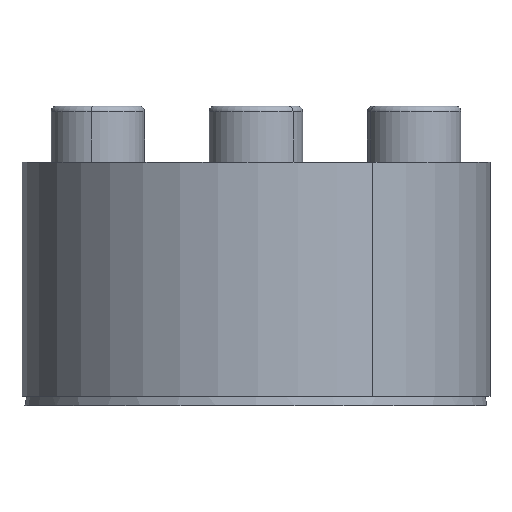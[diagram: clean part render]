
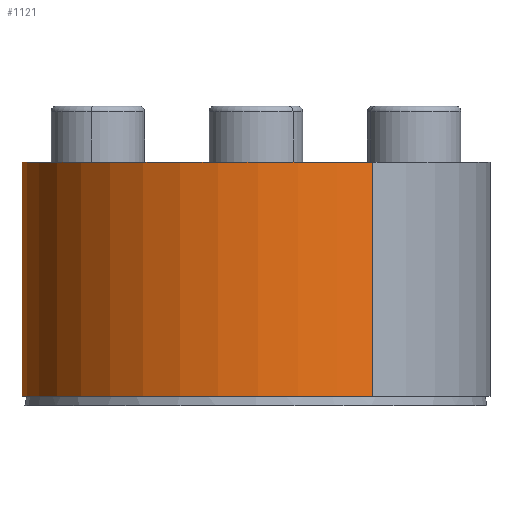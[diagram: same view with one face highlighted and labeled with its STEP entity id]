
A CAD part, front view. The second image highlights one B-rep face of the part: STEP entity #1121.
In plain terms, the highlighted cylindrical face has radius 25 mm (diameter 50 mm), a partial arc.
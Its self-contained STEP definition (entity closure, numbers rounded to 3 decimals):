
#95 = CARTESIAN_POINT ( 'NONE',  ( -24.98, -1., 1.024 ) ) ;
#251 = CYLINDRICAL_SURFACE ( 'NONE', #5827, 25. ) ;
#395 = VECTOR ( 'NONE', #1952, 1000. ) ;
#780 = VERTEX_POINT ( 'NONE', #9679 ) ;
#1034 = DIRECTION ( 'NONE',  ( 0., 0., -1. ) ) ;
#1121 = ADVANCED_FACE ( 'NONE', ( #1218 ), #251, .T. ) ;
#1215 = ORIENTED_EDGE ( 'NONE', *, *, #7143, .T. ) ;
#1218 = FACE_OUTER_BOUND ( 'NONE', #8029, .T. ) ;
#1461 = CARTESIAN_POINT ( 'NONE',  ( -24.98, -1., 1.024 ) ) ;
#1529 = VECTOR ( 'NONE', #3174, 1000. ) ;
#1952 = DIRECTION ( 'NONE',  ( 0., 0., 1. ) ) ;
#2355 = VERTEX_POINT ( 'NONE', #1461 ) ;
#2838 = DIRECTION ( 'NONE',  ( -0.5, 0.866, 0. ) ) ;
#2923 = CIRCLE ( 'NONE', #3087, 25. ) ;
#3087 = AXIS2_PLACEMENT_3D ( 'NONE', #4184, #9535, #4979 ) ;
#3174 = DIRECTION ( 'NONE',  ( 0., 0., -1. ) ) ;
#3462 = CARTESIAN_POINT ( 'NONE',  ( 0., 0., 1.024 ) ) ;
#3560 = DIRECTION ( 'NONE',  ( 0., 0., 1. ) ) ;
#3566 = LINE ( 'NONE', #95, #1529 ) ;
#4002 = EDGE_CURVE ( 'NONE', #780, #2355, #3566, .T. ) ;
#4184 = CARTESIAN_POINT ( 'NONE',  ( 0., 0., 26.024 ) ) ;
#4538 = EDGE_CURVE ( 'NONE', #8697, #780, #2923, .T. ) ;
#4979 = DIRECTION ( 'NONE',  ( 0.5, -0.866, 0. ) ) ;
#5327 = CARTESIAN_POINT ( 'NONE',  ( 12.5, -21.651, 1.024 ) ) ;
#5334 = ORIENTED_EDGE ( 'NONE', *, *, #4002, .T. ) ;
#5659 = CARTESIAN_POINT ( 'NONE',  ( 0., 0., 1.024 ) ) ;
#5827 = AXIS2_PLACEMENT_3D ( 'NONE', #3462, #3560, #2838 ) ;
#6430 = DIRECTION ( 'NONE',  ( 0.5, -0.866, 0. ) ) ;
#6544 = CARTESIAN_POINT ( 'NONE',  ( 12.5, -21.651, 26.024 ) ) ;
#7143 = EDGE_CURVE ( 'NONE', #8961, #8697, #8334, .T. ) ;
#7376 = CARTESIAN_POINT ( 'NONE',  ( 12.5, -21.651, 1.024 ) ) ;
#8029 = EDGE_LOOP ( 'NONE', ( #9816, #1215, #9595, #5334 ) ) ;
#8334 = LINE ( 'NONE', #7376, #395 ) ;
#8697 = VERTEX_POINT ( 'NONE', #6544 ) ;
#8961 = VERTEX_POINT ( 'NONE', #5327 ) ;
#9031 = AXIS2_PLACEMENT_3D ( 'NONE', #5659, #1034, #6430 ) ;
#9150 = EDGE_CURVE ( 'NONE', #8961, #2355, #9654, .T. ) ;
#9535 = DIRECTION ( 'NONE',  ( 0., 0., -1. ) ) ;
#9595 = ORIENTED_EDGE ( 'NONE', *, *, #4538, .T. ) ;
#9654 = CIRCLE ( 'NONE', #9031, 25. ) ;
#9679 = CARTESIAN_POINT ( 'NONE',  ( -24.98, -1., 26.024 ) ) ;
#9816 = ORIENTED_EDGE ( 'NONE', *, *, #9150, .F. ) ;
